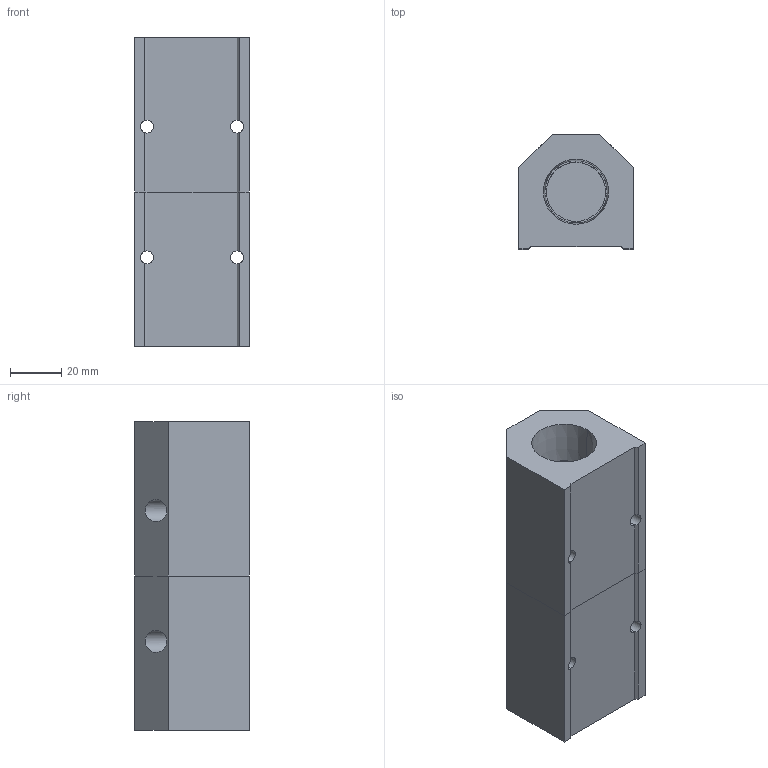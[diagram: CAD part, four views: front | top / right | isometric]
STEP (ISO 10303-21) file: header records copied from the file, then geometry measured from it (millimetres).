
FILE_DESCRIPTION (( 'STEP AP214' ), '1' );
FILE_NAME ('ALM4C-N4N12-120RB.step', '2022-02-06T14:18:41', ( '' ), ( '' ), 'SwSTEP 2.0', 'SolidWorks 2020', '' );
FILE_SCHEMA (( 'AUTOMOTIVE_DESIGN' ));
Length unit declared in the file: millimetre
Products named in the file (1): ALM4C-N4N12-120RB
Bounding box: 44.5 x 44.5 x 120 mm (x, y, z)
Volume: 152788.5 mm3; surface area: 38373.7 mm2
Topology: 2 solids, 2 shells, 320 faces, 842 edges, 556 vertices
Faces by surface type: plane 226, bspline 50, cylinder 26, cone 18
Entity records: 16689 total; most frequent: CARTESIAN_POINT 6063, ORIENTED_EDGE 1684, DIRECTION 1308, EDGE_CURVE 842, VECTOR 638, LINE 638, VERTEX_POINT 556, EDGE_LOOP 366
